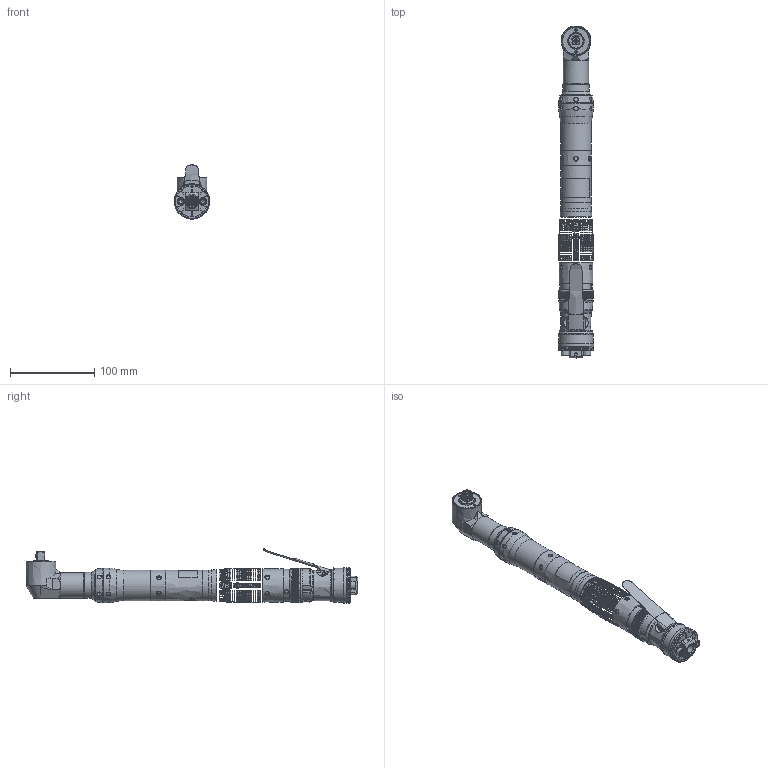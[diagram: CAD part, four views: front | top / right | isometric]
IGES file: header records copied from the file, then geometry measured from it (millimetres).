
Global section: file name: C:\Documents and Settings\akarthi\Desktop\QA4AALS040NP35S06.igs; native system: NX V4.0; preprocessor: UGS NX IGES V4.0; date: 20071114.120955; units: millimetre
Bounding box: 42 x 395 x 64.44 mm (x, y, z)
Surface area: 66307.2 mm2 (no closed solid volume)
Topology: 0 solids, 0 shells, 1126 faces, 11801 edges, 11609 vertices
Faces by surface type: bspline 1126
